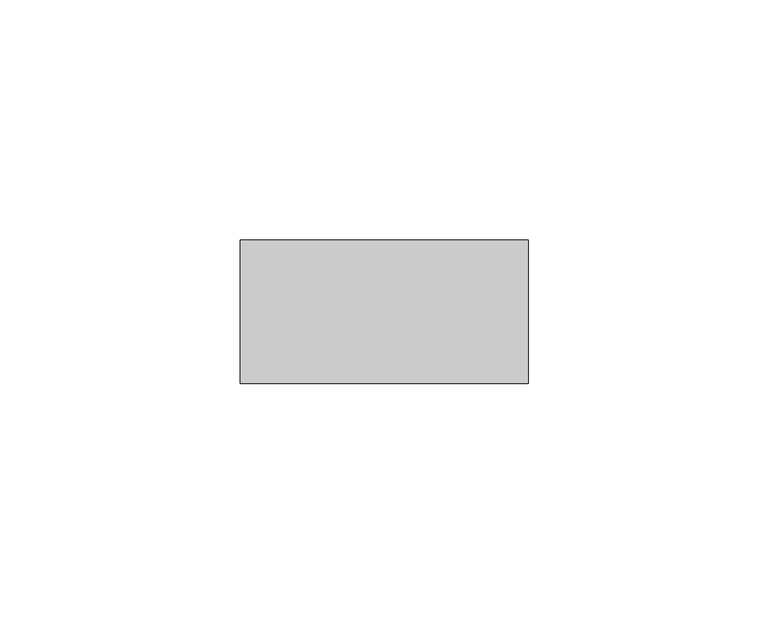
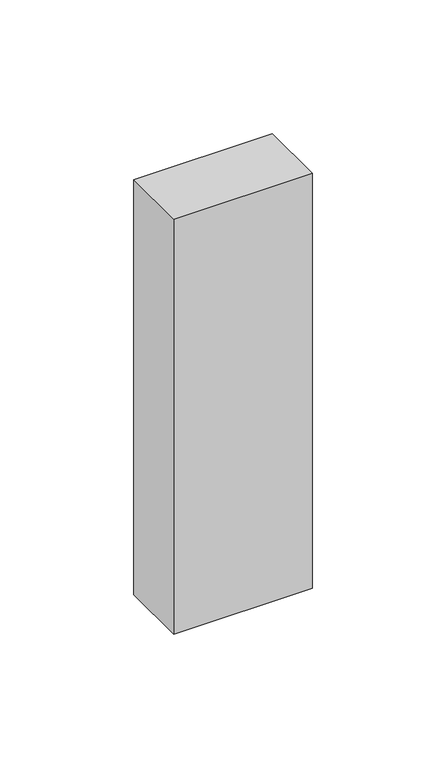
"""IFC4 building model written with IfcOpenShell, lengths in millimetres: member geometry, Прямоугольный импост : Квадрат 30 мм."""

from ifc_helpers import new_model, si_unit, frame, origin, place, context, project, spatial, polyline, outline, extrude, source, transform, mapped, element, save


def member_a3a5f006(model_context):
    return source(origin(), model_context, "Body", "SweptSolid", [
        extrude(outline(polyline([(30.0, 15.0), (30.0, -15.0), (-30.0, -15.0), (-30.0, 15.0), (30.0, 15.0)])), frame((0.0, 0.0, -189.7401938), z_axis=(0.0, 0.0, 1.0), x_axis=(1.0, 0.0, 0.0)), (0.0, 0.0, 1.0), 189.7401938),
    ])


if __name__ == "__main__":
    model = new_model("IFC4")
    model_context = context("Model", 3, world=origin())
    ifc_project = project(units=[si_unit("LENGTHUNIT", "METRE", prefix="MILLI")], contexts=[model_context])
    site = spatial("IfcSite", under=ifc_project)
    building = spatial("IfcBuilding", under=site)
    placement = place(None, origin())
    member_shape = member_a3a5f006(model_context)
    element("IfcMember", 1, ObjectType="Прямоугольный импост : Квадрат 30 мм", at=placement, inside=building, context=model_context, shape_type="MappedRepresentation", body=[
        mapped(member_shape, transform((0.0, 0.0, 0.0), x_axis=(1.0, 0.0, 0.0), y_axis=(0.0, 1.0, 0.0), z_axis=(0.0, 0.0, 1.0))),
    ])
    save(model, "model.ifc")
